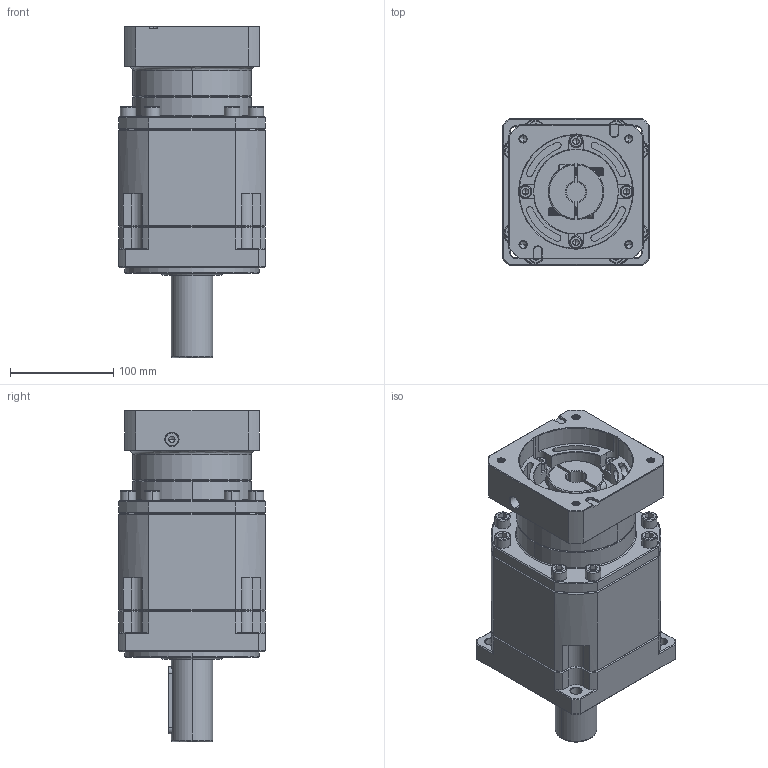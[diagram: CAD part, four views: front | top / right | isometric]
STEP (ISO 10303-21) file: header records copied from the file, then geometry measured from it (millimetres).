
FILE_DESCRIPTION (( 'STEP AP214' ), '1' );
FILE_NAME ('ZB142A-D40-L3-P2-19-110-145-M8.step', '2023-09-02T02:51:07', ( '' ), ( '' ), 'SwSTEP 2.0', 'SolidWorks 2016', '' );
FILE_SCHEMA (( 'AUTOMOTIVE_DESIGN' ));
Length unit declared in the file: millimetre
Products named in the file (1): ZB142A-D40-L3-P2-19-110-145-M8
Bounding box: 142 x 142 x 321.2 mm (x, y, z)
Volume: 3705595 mm3; surface area: 275579.6 mm2
Topology: 6 solids, 6 shells, 2600 faces, 6834 edges, 4354 vertices
Faces by surface type: plane 1231, cylinder 517, bspline 407, cone 388, torus 57
Entity records: 139135 total; most frequent: CARTESIAN_POINT 49743, ORIENTED_EDGE 13560, DIRECTION 11115, EDGE_CURVE 6780, VERTEX_POINT 4354, VECTOR 4287, LINE 4287, AXIS2_PLACEMENT_3D 3414
